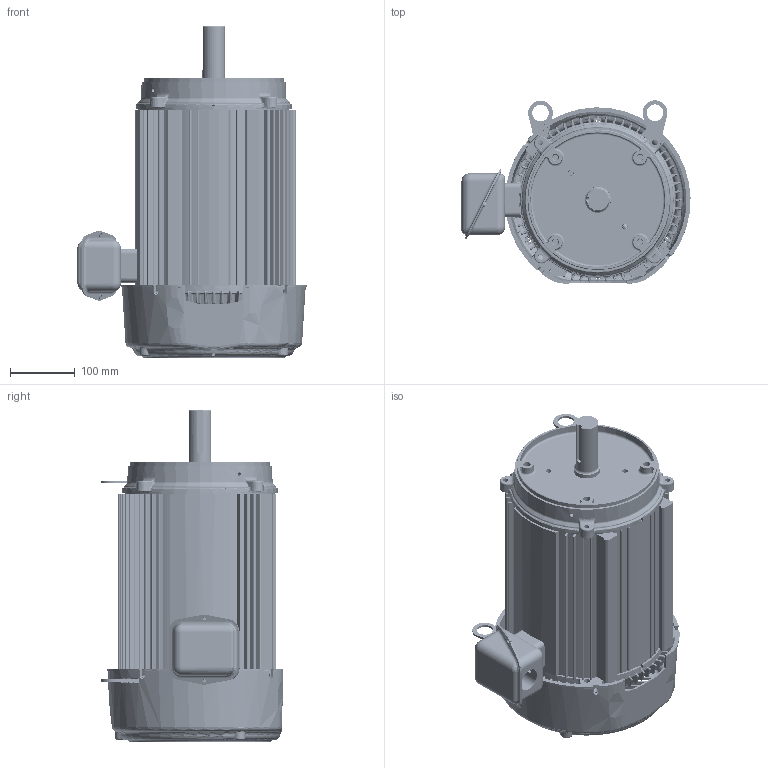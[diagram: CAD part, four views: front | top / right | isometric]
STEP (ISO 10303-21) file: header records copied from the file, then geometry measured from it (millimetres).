
FILE_DESCRIPTION((''),'2;1');
FILE_NAME('STD_CFACE_ASM','2013-03-19T',('emd2341'),('Nidec Motor Corporation'),'PRO/ENGINEER BY PARAMETRIC TECHNOLOGY CORPORATION, 2010140','PRO/ENGINEER BY PARAMETRIC TECHNOLOGY CORPORATION, 2010140','');
FILE_SCHEMA(('CONFIG_CONTROL_DESIGN'));
Length unit declared in the file: inch
Products named in the file (15): 0392317_AF0; 0390920; 0375083-BKT_AF1; 0361252_AF0; 0375084_ASM; 0362111; 0390408; 0380744-BKT_AF0; 0298013_AF0; 0380745_ASM; 0345787; 0364714; 0390417; 0376890; STD_CFACE_ASM
Assembly tree (15 placements, depth 3):
  STD_CFACE_ASM
    0392317_AF0
    0390920
    0375084_ASM
      0375083-BKT_AF1
      0361252_AF0
    0362111
    0390408
    0380745_ASM
      0380744-BKT_AF0
      0298013_AF0
    0345787
    0364714
    0390417
    0376890  x2
Bounding box: 352.79 x 281.68 x 511.16 mm (x, y, z)
Volume: 3712002.5 mm3; surface area: 1458732.2 mm2
Topology: 15 solids, 15 shells, 5486 faces, 13171 edges, 7689 vertices
Faces by surface type: bspline 2455, cylinder 1042, plane 1023, torus 476, cone 243, sphere 223, extrusion 24
Entity records: 284938 total; most frequent: CARTESIAN_POINT 175934, ORIENTED_EDGE 26284, DIRECTION 18181, EDGE_CURVE 13142, AXIS2_PLACEMENT_3D 7729, VERTEX_POINT 7673, B_SPLINE_CURVE_WITH_KNOTS 5769, EDGE_LOOP 5645
